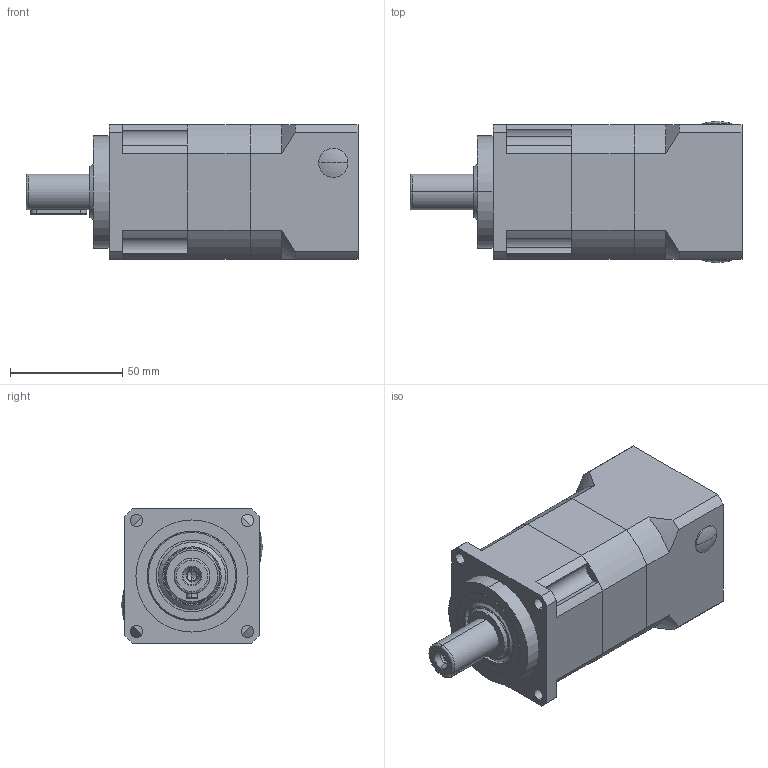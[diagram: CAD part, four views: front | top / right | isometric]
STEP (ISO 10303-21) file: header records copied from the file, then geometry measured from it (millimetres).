
FILE_DESCRIPTION (( 'STEP AP203' ), '1' );
FILE_NAME ('060-L2-14-50-70-M4.STEP', '2020-06-20T08:40:32', ( 'ylmfeng' ), ( 'ylmfeng.com' ), 'SwSTEP 2.0', 'SolidWorks 2014', '' );
FILE_SCHEMA (( 'CONFIG_CONTROL_DESIGN' ));
Length unit declared in the file: millimetre
Products named in the file (1): 060-L2-14-50-70-M4
Bounding box: 148 x 63 x 60 mm (x, y, z)
Volume: 354565.8 mm3; surface area: 76046 mm2
Topology: 16 solids, 17 shells, 456 faces, 1124 edges, 709 vertices
Faces by surface type: plane 164, cylinder 158, cone 70, torus 36, bspline 28
Entity records: 14679 total; most frequent: CARTESIAN_POINT 3818, DIRECTION 2311, ORIENTED_EDGE 2216, EDGE_CURVE 1108, AXIS2_PLACEMENT_3D 917, VERTEX_POINT 709, EDGE_LOOP 509, CIRCLE 488
